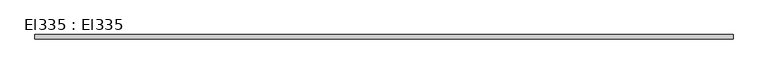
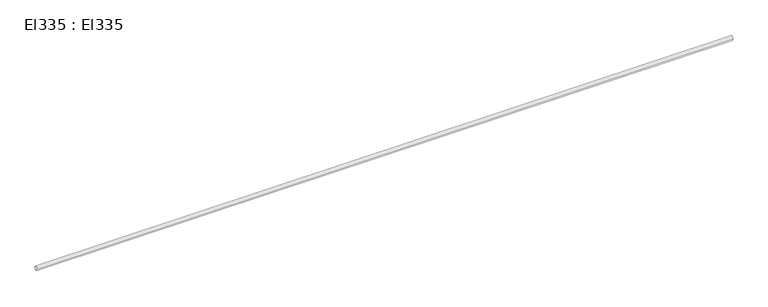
"""IFC4 building model written with IfcOpenShell, lengths in millimetres: cable carrier segment geometry, El335 : El335."""

import ifcopenshell
import ifcopenshell.guid

model = None  # the IFC model being written
_history = None  # IfcOwnerHistory: only IFC2X3 demands one
_inside = {}  # id of a spatial element -> (the spatial element, [elements in it])
_under = {}  # id of a project, library or spatial element -> (it, [spatial elements below it])
_declared = {}  # id of a project -> (the project, [libraries it declares])
_typed = {}  # id of a type object -> (the type object, [elements of that type])
_made_of = {}  # id of a material, layer set ... -> (it, [elements and type objects made of it])


def new_model(schema):
    """Start an empty IFC model of exactly this schema.

    Asked for "IFC4X3", IfcOpenShell would pick the latest addendum, in which some entities
    have other attributes; the version numbers below select the first issue.
    IFC2X3 requires an IfcOwnerHistory on every rooted entity: one is made here for all.
    """
    global model, _history
    if schema == "IFC4X3":
        model = ifcopenshell.file(schema_version=(4, 3, 0, 0))
    else:
        model = ifcopenshell.file(schema=schema)
    _inside.clear()
    _under.clear()
    _declared.clear()
    _typed.clear()
    _made_of.clear()
    _history = None
    if model.schema == "IFC2X3":
        org = make("IfcOrganization", Name="unknown")
        user = make(
            "IfcPersonAndOrganization",
            ThePerson=make("IfcPerson", FamilyName="unknown"),
            TheOrganization=org,
        )
        app = make(
            "IfcApplication",
            ApplicationDeveloper=org,
            Version="unknown",
            ApplicationFullName="unknown",
            ApplicationIdentifier="unknown",
        )
        _history = make(
            "IfcOwnerHistory",
            OwningUser=user,
            OwningApplication=app,
            ChangeAction="ADDED",
            CreationDate=0,
        )
    return model


def make(cls, **values):
    """One entity of the class cls with the attributes given. An attribute that is None is left unset."""
    return model.create_entity(
        cls, **{name: value for name, value in values.items() if value is not None}
    )


def rooted(cls, **values):
    """An entity with a GlobalId (a new one), such as an element, a storey or a relation."""
    return make(cls, GlobalId=ifcopenshell.guid.new(), OwnerHistory=_history, **values)


def si_unit(unit_type, name, prefix=None):
    """IfcSIUnit, for example si_unit("LENGTHUNIT", "METRE", prefix="MILLI")."""
    return make("IfcSIUnit", UnitType=unit_type, Prefix=prefix, Name=name)


def assignment(units):
    """IfcUnitAssignment: the units of a project."""
    return None if units is None else make("IfcUnitAssignment", Units=units)


def point(xyz):
    """IfcCartesianPoint."""
    return None if xyz is None else make("IfcCartesianPoint", Coordinates=xyz)


def direction(xyz):
    """IfcDirection."""
    return None if xyz is None else make("IfcDirection", DirectionRatios=xyz)


def frame(location, z_axis=None, x_axis=None):
    """IfcAxis2Placement3D, a coordinate frame: its origin and axes. An axis left out is left unset."""
    return make(
        "IfcAxis2Placement3D",
        Location=point(location),
        Axis=direction(z_axis),
        RefDirection=direction(x_axis),
    )


def frame_2d(location, x_axis=None):
    """IfcAxis2Placement2D, a coordinate frame in the plane: its origin and x axis."""
    return make(
        "IfcAxis2Placement2D", Location=point(location), RefDirection=direction(x_axis)
    )


def origin():
    """The frame at (0, 0, 0) with its axes left unset."""
    return frame((0.0, 0.0, 0.0))


def place(relative_to, where):
    """IfcLocalPlacement: puts the frame where relative to a parent placement (None: the world)."""
    return make(
        "IfcLocalPlacement", PlacementRelTo=relative_to, RelativePlacement=where
    )


def context(
    kind, dimensions, precision=None, world=None, true_north=None, identifier=None
):
    """IfcGeometricRepresentationContext, for example the 3D "Model" context."""
    return make(
        "IfcGeometricRepresentationContext",
        ContextIdentifier=identifier,
        ContextType=kind,
        CoordinateSpaceDimension=dimensions,
        Precision=precision,
        WorldCoordinateSystem=world,
        TrueNorth=true_north,
    )


def project(units=None, contexts=None):
    """IfcProject with its units and contexts."""
    return rooted(
        "IfcProject",
        Name="project",
        RepresentationContexts=contexts,
        UnitsInContext=assignment(units),
    )


def spatial(cls, under=None, at=None, **own):
    """A site, building, storey or space (cls), placed at a placement, below another one or the project."""
    s = rooted(cls, ObjectPlacement=at, **own)
    if under is not None:
        _under.setdefault(under.id(), (under, []))[1].append(s)
    return s


def circle_curve(where, radius):
    """IfcCircle in the frame where."""
    return make("IfcCircle", Position=where, Radius=radius)


def trimmed(basis, trim1, trim2, sense, master):
    """IfcTrimmedCurve: the piece of a basis curve between two trims."""
    return make(
        "IfcTrimmedCurve",
        BasisCurve=basis,
        Trim1=trim1,
        Trim2=trim2,
        SenseAgreement=sense,
        MasterRepresentation=master,
    )


def segment(curve, same_sense, transition):
    """IfcCompositeCurveSegment."""
    return make(
        "IfcCompositeCurveSegment",
        Transition=transition,
        SameSense=same_sense,
        ParentCurve=curve,
    )


def composite_curve(segments, self_intersect=None):
    """IfcCompositeCurve: segments joined end to end."""
    return make("IfcCompositeCurve", Segments=segments, SelfIntersect=self_intersect)


def outline(outer, holes=None, kind="AREA"):
    """IfcArbitraryClosedProfileDef: a profile drawn as a closed curve; with holes, ...WithVoids."""
    if holes is None:
        return make("IfcArbitraryClosedProfileDef", ProfileType=kind, OuterCurve=outer)
    return make(
        "IfcArbitraryProfileDefWithVoids",
        ProfileType=kind,
        OuterCurve=outer,
        InnerCurves=holes,
    )


def extrude(swept, where, along, depth):
    """IfcExtrudedAreaSolid: the profile swept, set in the frame where, extruded along a direction by depth."""
    return make(
        "IfcExtrudedAreaSolid",
        SweptArea=swept,
        Position=where,
        ExtrudedDirection=direction(along),
        Depth=depth,
    )


def shape(context_of_items, identifier, shape_type, items):
    """IfcShapeRepresentation: the items that make up one representation, for example the "Body"."""
    return make(
        "IfcShapeRepresentation",
        ContextOfItems=context_of_items,
        RepresentationIdentifier=identifier,
        RepresentationType=shape_type,
        Items=items,
    )


def source(mapping_origin, context_of_items, identifier, shape_type, items):
    """IfcRepresentationMap: a shape defined once, which mapped items show again and again."""
    return make(
        "IfcRepresentationMap",
        MappingOrigin=mapping_origin,
        MappedRepresentation=shape(context_of_items, identifier, shape_type, items),
    )


def transform(
    local_origin,
    x_axis=None,
    y_axis=None,
    z_axis=None,
    scale=None,
    scale2=None,
    scale3=None,
    uniform=True,
):
    """IfcCartesianTransformationOperator3D, or its non-uniform kind. x_axis, y_axis, z_axis: its Axis1, 2, 3."""
    if uniform:
        return make(
            "IfcCartesianTransformationOperator3D",
            Axis1=direction(x_axis),
            Axis2=direction(y_axis),
            LocalOrigin=point(local_origin),
            Scale=scale,
            Axis3=direction(z_axis),
        )
    return make(
        "IfcCartesianTransformationOperator3DnonUniform",
        Axis1=direction(x_axis),
        Axis2=direction(y_axis),
        LocalOrigin=point(local_origin),
        Scale=scale,
        Axis3=direction(z_axis),
        Scale2=scale2,
        Scale3=scale3,
    )


def mapped(mapping_source, mapping_target):
    """IfcMappedItem: shows the shape of a source again, moved by a transform."""
    return make(
        "IfcMappedItem", MappingSource=mapping_source, MappingTarget=mapping_target
    )


def made_of(thing, what):
    """Note that an element or type object is made of a material, layer set ...; save() writes the relation."""
    if what is not None:
        _made_of.setdefault(what.id(), (what, []))[1].append(thing)
    return thing


def element(
    cls,
    number,
    at=None,
    inside=None,
    cuts=None,
    type_object=None,
    material=None,
    context=None,
    identifier="Body",
    shape_type=None,
    held_by="IfcProductDefinitionShape",
    body=None,
    shapes=None,
    **own,
):
    """One element of the class cls, such as IfcWall. Its Tag is "e" and its number.

    at: its placement. inside: the storey or other place that contains it. cuts: it is an
    opening in that element (IfcRelVoidsElement). A single representation is given by context,
    identifier, shape_type and body (its items); several are given by shapes. held_by: the class
    of the entity that holds the representations. save() writes the other relations.
    """
    e = rooted(cls, Tag="e%d" % number, ObjectPlacement=at, **own)
    if body is not None:
        shapes = [shape(context, identifier, shape_type, body)]
    if shapes is not None:
        e.Representation = make(held_by, Representations=shapes)
    if inside is not None:
        _inside.setdefault(inside.id(), (inside, []))[1].append(e)
    if cuts is not None:
        rooted(
            "IfcRelVoidsElement", RelatingBuildingElement=cuts, RelatedOpeningElement=e
        )
    if type_object is not None:
        _typed.setdefault(type_object.id(), (type_object, []))[1].append(e)
    return made_of(e, material)


def aggregate(whole, parts):
    """IfcRelAggregates: a whole, such as a stair, and the parts it consists of."""
    return rooted("IfcRelAggregates", RelatingObject=whole, RelatedObjects=parts)


def save(model, path):
    """Write the relations noted so far, then the file.

    IfcRelAggregates (storeys below a building ...), IfcRelContainedInSpatialStructure (elements
    in a storey), IfcRelDefinesByType, IfcRelAssociatesMaterial and IfcRelDeclares: one each for
    every whole, place, type object, material and project.
    """
    for whole, parts in _under.values():
        aggregate(whole, parts)
    for where, things in _inside.values():
        rooted(
            "IfcRelContainedInSpatialStructure",
            RelatedElements=things,
            RelatingStructure=where,
        )
    for kind, things in _typed.values():
        rooted("IfcRelDefinesByType", RelatedObjects=things, RelatingType=kind)
    for what, things in _made_of.values():
        rooted("IfcRelAssociatesMaterial", RelatedObjects=things, RelatingMaterial=what)
    for by, libraries in _declared.values():
        rooted("IfcRelDeclares", RelatingContext=by, RelatedDefinitions=libraries)
    model.write(path)


def el335_el335_32b1aea1(model_context):
    return source(origin(), model_context, "Body", "SweptSolid", [
        extrude(outline(composite_curve([segment(trimmed(circle_curve(frame_2d((9859.6, 2950.0)), 9.5), [point((9850.1, 2950.0))], [point((9869.1, 2950.0))], False, "CARTESIAN"), True, "CONTINUOUS"), segment(trimmed(circle_curve(frame_2d((9859.6, 2950.0)), 9.5), [point((9869.1, 2950.0))], [point((9850.1, 2950.0))], False, "CARTESIAN"), True, "CONTINUOUS")], self_intersect=False)), frame((8226.1, 0.0, 0.0), z_axis=(1.0, 0.0, 0.0), x_axis=(0.0, 1.0, 0.0)), (0.0, 0.0, 1.0), 3050.0),
    ])


if __name__ == "__main__":
    model = new_model("IFC4")
    model_context = context("Model", 3, world=origin())
    ifc_project = project(units=[si_unit("LENGTHUNIT", "METRE", prefix="MILLI")], contexts=[model_context])
    site = spatial("IfcSite", under=ifc_project)
    building = spatial("IfcBuilding", under=site)
    placement = place(None, origin())
    el335_el335_shape = el335_el335_32b1aea1(model_context)
    element("IfcCableCarrierSegment", 1, ObjectType="El335 : El335", at=placement, inside=building, context=model_context, shape_type="MappedRepresentation", body=[
        mapped(el335_el335_shape, transform((0.0, 0.0, 0.0), x_axis=(1.0, 0.0, 0.0), y_axis=(0.0, 1.0, 0.0), z_axis=(0.0, 0.0, 1.0))),
    ])
    save(model, "model.ifc")
